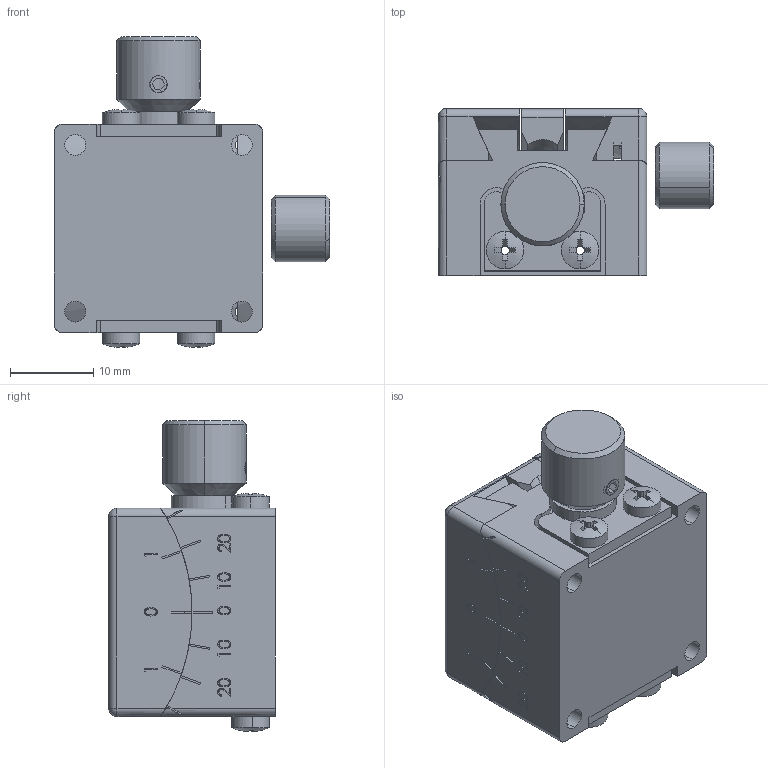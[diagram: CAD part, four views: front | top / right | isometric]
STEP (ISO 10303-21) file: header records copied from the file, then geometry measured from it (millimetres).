
FILE_DESCRIPTION (( 'STEP AP203' ), '1' );
FILE_NAME ('7SGM0230褒弇怢.STEP', '2019-07-16T03:04:21', ( '' ), ( '' ), 'SwSTEP 2.0', 'SolidWorks 2014', '' );
FILE_SCHEMA (( 'CONFIG_CONTROL_DESIGN' ));
Length unit declared in the file: millimetre
Products named in the file (1): 7SGM0230褒弇怢
Bounding box: 33.02 x 20 x 37.28 mm (x, y, z)
Surface area: 7354.6 mm2 (no closed solid volume)
Topology: 0 solids, 21 shells, 454 faces, 1380 edges, 934 vertices
Faces by surface type: plane 210, cylinder 135, bspline 66, cone 25, sphere 12, torus 6
Entity records: 21437 total; most frequent: CARTESIAN_POINT 9491, ORIENTED_EDGE 2433, DIRECTION 2307, EDGE_CURVE 1374, VERTEX_POINT 934, AXIS2_PLACEMENT_3D 812, VECTOR 683, LINE 683
